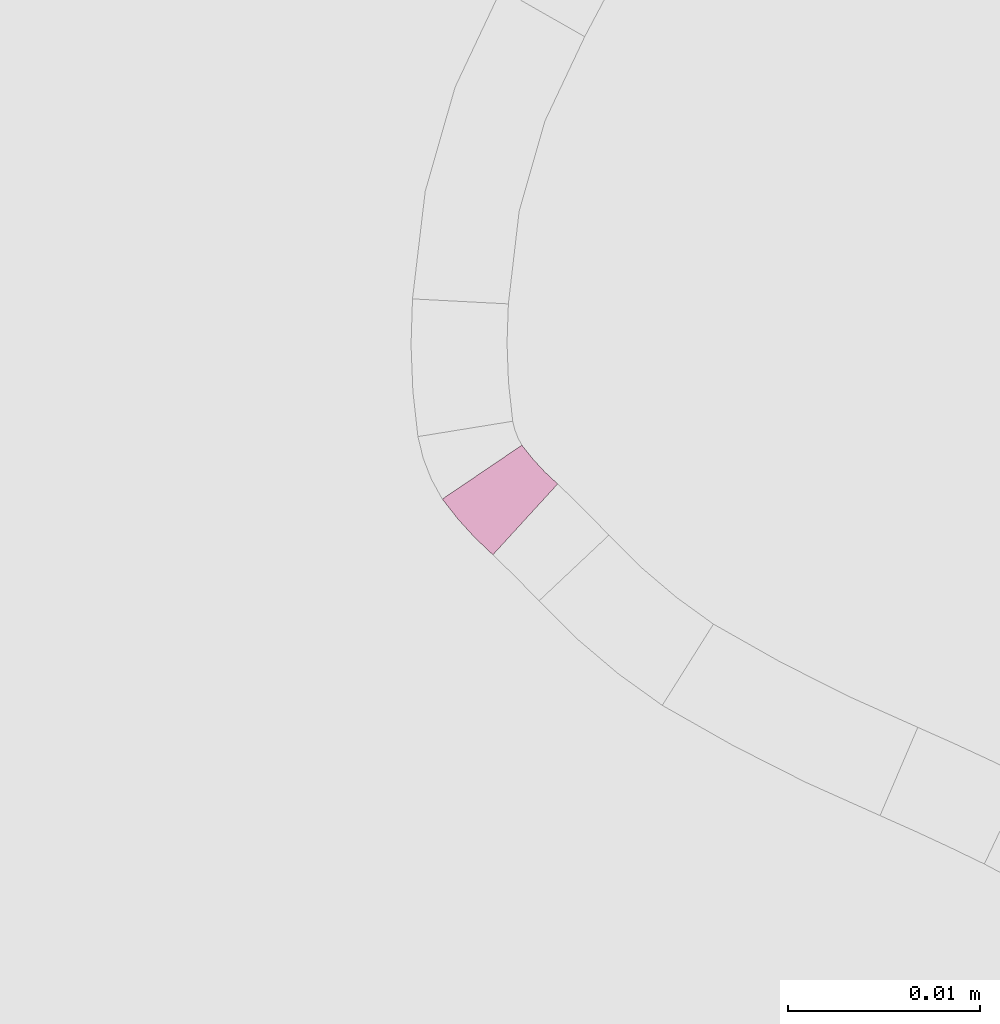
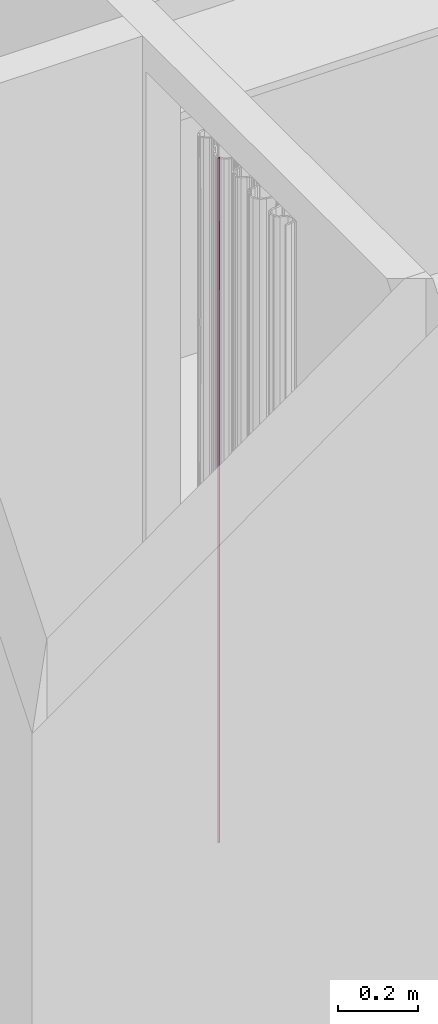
# One storey, part 323 of 418: 1 furnishing.
"""IFC2X3 building model written with IfcOpenShell, lengths in millimetres."""

import ifcopenshell
import ifcopenshell.guid

model = None  # the IFC model being written
_history = None  # IfcOwnerHistory: only IFC2X3 demands one
_inside = {}  # id of a spatial element -> (the spatial element, [elements in it])
_under = {}  # id of a project, library or spatial element -> (it, [spatial elements below it])
_declared = {}  # id of a project -> (the project, [libraries it declares])
_typed = {}  # id of a type object -> (the type object, [elements of that type])
_made_of = {}  # id of a material, layer set ... -> (it, [elements and type objects made of it])


def new_model(schema):
    """Start an empty IFC model of exactly this schema.

    Asked for "IFC4X3", IfcOpenShell would pick the latest addendum, in which some entities
    have other attributes; the version numbers below select the first issue.
    IFC2X3 requires an IfcOwnerHistory on every rooted entity: one is made here for all.
    """
    global model, _history
    if schema == "IFC4X3":
        model = ifcopenshell.file(schema_version=(4, 3, 0, 0))
    else:
        model = ifcopenshell.file(schema=schema)
    _inside.clear()
    _under.clear()
    _declared.clear()
    _typed.clear()
    _made_of.clear()
    _history = None
    if model.schema == "IFC2X3":
        org = make("IfcOrganization", Name="unknown")
        user = make(
            "IfcPersonAndOrganization",
            ThePerson=make("IfcPerson", FamilyName="unknown"),
            TheOrganization=org,
        )
        app = make(
            "IfcApplication",
            ApplicationDeveloper=org,
            Version="unknown",
            ApplicationFullName="unknown",
            ApplicationIdentifier="unknown",
        )
        _history = make(
            "IfcOwnerHistory",
            OwningUser=user,
            OwningApplication=app,
            ChangeAction="ADDED",
            CreationDate=0,
        )
    return model


def make(cls, **values):
    """One entity of the class cls with the attributes given. An attribute that is None is left unset."""
    return model.create_entity(
        cls, **{name: value for name, value in values.items() if value is not None}
    )


def entity(cls, *values):
    """Any entity or typed value of the class cls, its attributes in the order of the schema. None: left unset."""
    e = model.create_entity(cls)
    for i, value in enumerate(values):
        if value is not None:
            e[i] = value
    return e


def rooted(cls, **values):
    """An entity with a GlobalId (a new one), such as an element, a storey or a relation."""
    return make(cls, GlobalId=ifcopenshell.guid.new(), OwnerHistory=_history, **values)


def si_unit(unit_type, name, prefix=None):
    """IfcSIUnit, for example si_unit("LENGTHUNIT", "METRE", prefix="MILLI")."""
    return make("IfcSIUnit", UnitType=unit_type, Prefix=prefix, Name=name)


def converted_unit(unit_type, name, factor, base, dimensions=None, offset=None):
    """IfcConversionBasedUnit, such as the inch: factor (a typed value) times the base unit."""
    return make(
        "IfcConversionBasedUnit"
        if offset is None
        else "IfcConversionBasedUnitWithOffset",
        ConversionOffset=offset,
        Dimensions=None
        if dimensions is None
        else entity("IfcDimensionalExponents", *dimensions),
        UnitType=unit_type,
        Name=name,
        ConversionFactor=make(
            "IfcMeasureWithUnit", ValueComponent=factor, UnitComponent=base
        ),
    )


def derived_unit(unit_type, elements):
    """IfcDerivedUnit: a product of units, each with its exponent."""
    return make(
        "IfcDerivedUnit",
        Elements=[
            make("IfcDerivedUnitElement", Unit=unit, Exponent=power)
            for unit, power in elements
        ],
        UnitType=unit_type,
    )


def money_unit(currency):
    """IfcMonetaryUnit."""
    return make("IfcMonetaryUnit", Currency=currency)


def assignment(units):
    """IfcUnitAssignment: the units of a project."""
    return None if units is None else make("IfcUnitAssignment", Units=units)


def point(xyz):
    """IfcCartesianPoint."""
    return None if xyz is None else make("IfcCartesianPoint", Coordinates=xyz)


def direction(xyz):
    """IfcDirection."""
    return None if xyz is None else make("IfcDirection", DirectionRatios=xyz)


def frame(location, z_axis=None, x_axis=None):
    """IfcAxis2Placement3D, a coordinate frame: its origin and axes. An axis left out is left unset."""
    return make(
        "IfcAxis2Placement3D",
        Location=point(location),
        Axis=direction(z_axis),
        RefDirection=direction(x_axis),
    )


def frame_2d(location, x_axis=None):
    """IfcAxis2Placement2D, a coordinate frame in the plane: its origin and x axis."""
    return make(
        "IfcAxis2Placement2D", Location=point(location), RefDirection=direction(x_axis)
    )


def origin_with_axes():
    """The frame at (0, 0, 0) with the z axis (0, 0, 1) and the x axis (1, 0, 0) written out."""
    return frame((0.0, 0.0, 0.0), z_axis=(0.0, 0.0, 1.0), x_axis=(1.0, 0.0, 0.0))


def place(relative_to, where):
    """IfcLocalPlacement: puts the frame where relative to a parent placement (None: the world)."""
    return make(
        "IfcLocalPlacement", PlacementRelTo=relative_to, RelativePlacement=where
    )


def context(
    kind, dimensions, precision=None, world=None, true_north=None, identifier=None
):
    """IfcGeometricRepresentationContext, for example the 3D "Model" context."""
    return make(
        "IfcGeometricRepresentationContext",
        ContextIdentifier=identifier,
        ContextType=kind,
        CoordinateSpaceDimension=dimensions,
        Precision=precision,
        WorldCoordinateSystem=world,
        TrueNorth=true_north,
    )


def subcontext(parent, identifier, kind, view, scale=None):
    """IfcGeometricRepresentationSubContext, for example "Body" below "Model"."""
    return make(
        "IfcGeometricRepresentationSubContext",
        ContextIdentifier=identifier,
        ContextType=kind,
        ParentContext=parent,
        TargetScale=scale,
        TargetView=view,
    )


def project(units=None, contexts=None):
    """IfcProject with its units and contexts."""
    return rooted(
        "IfcProject",
        Name="project",
        RepresentationContexts=contexts,
        UnitsInContext=assignment(units),
    )


def spatial(cls, under=None, at=None, **own):
    """A site, building, storey or space (cls), placed at a placement, below another one or the project."""
    s = rooted(cls, ObjectPlacement=at, **own)
    if under is not None:
        _under.setdefault(under.id(), (under, []))[1].append(s)
    return s


def polyline(points):
    """IfcPolyline through the points."""
    return make("IfcPolyline", Points=[point(p) for p in points])


def circle_curve(where, radius):
    """IfcCircle in the frame where."""
    return make("IfcCircle", Position=where, Radius=radius)


def parameter(value):
    """IfcParameterValue: where a trimmed curve begins or ends, as a parameter of its basis curve."""
    return model.create_entity("IfcParameterValue", value)


def trimmed(basis, trim1, trim2, sense, master):
    """IfcTrimmedCurve: the piece of a basis curve between two trims."""
    return make(
        "IfcTrimmedCurve",
        BasisCurve=basis,
        Trim1=trim1,
        Trim2=trim2,
        SenseAgreement=sense,
        MasterRepresentation=master,
    )


def segment(curve, same_sense, transition):
    """IfcCompositeCurveSegment."""
    return make(
        "IfcCompositeCurveSegment",
        Transition=transition,
        SameSense=same_sense,
        ParentCurve=curve,
    )


def composite_curve(segments, self_intersect=None):
    """IfcCompositeCurve: segments joined end to end."""
    return make("IfcCompositeCurve", Segments=segments, SelfIntersect=self_intersect)


def outline(outer, holes=None, kind="AREA"):
    """IfcArbitraryClosedProfileDef: a profile drawn as a closed curve; with holes, ...WithVoids."""
    if holes is None:
        return make("IfcArbitraryClosedProfileDef", ProfileType=kind, OuterCurve=outer)
    return make(
        "IfcArbitraryProfileDefWithVoids",
        ProfileType=kind,
        OuterCurve=outer,
        InnerCurves=holes,
    )


def extrude(swept, where, along, depth):
    """IfcExtrudedAreaSolid: the profile swept, set in the frame where, extruded along a direction by depth."""
    return make(
        "IfcExtrudedAreaSolid",
        SweptArea=swept,
        Position=where,
        ExtrudedDirection=direction(along),
        Depth=depth,
    )


def shape(context_of_items, identifier, shape_type, items):
    """IfcShapeRepresentation: the items that make up one representation, for example the "Body"."""
    return make(
        "IfcShapeRepresentation",
        ContextOfItems=context_of_items,
        RepresentationIdentifier=identifier,
        RepresentationType=shape_type,
        Items=items,
    )


def material(Name=None, Category=None):
    """IfcMaterial."""
    return make("IfcMaterial", Name=Name, Category=Category)


def made_of(thing, what):
    """Note that an element or type object is made of a material, layer set ...; save() writes the relation."""
    if what is not None:
        _made_of.setdefault(what.id(), (what, []))[1].append(thing)
    return thing


def type_object(cls, material=None, **own):
    """A type object (cls), such as IfcWallType, which elements share."""
    return made_of(rooted(cls, **own), material)


def element(
    cls,
    number,
    at=None,
    inside=None,
    cuts=None,
    type_object=None,
    material=None,
    context=None,
    identifier="Body",
    shape_type=None,
    held_by="IfcProductDefinitionShape",
    body=None,
    shapes=None,
    **own,
):
    """One element of the class cls, such as IfcWall. Its Tag is "e" and its number.

    at: its placement. inside: the storey or other place that contains it. cuts: it is an
    opening in that element (IfcRelVoidsElement). A single representation is given by context,
    identifier, shape_type and body (its items); several are given by shapes. held_by: the class
    of the entity that holds the representations. save() writes the other relations.
    """
    e = rooted(cls, Tag="e%d" % number, ObjectPlacement=at, **own)
    if body is not None:
        shapes = [shape(context, identifier, shape_type, body)]
    if shapes is not None:
        e.Representation = make(held_by, Representations=shapes)
    if inside is not None:
        _inside.setdefault(inside.id(), (inside, []))[1].append(e)
    if cuts is not None:
        rooted(
            "IfcRelVoidsElement", RelatingBuildingElement=cuts, RelatedOpeningElement=e
        )
    if type_object is not None:
        _typed.setdefault(type_object.id(), (type_object, []))[1].append(e)
    return made_of(e, material)


def aggregate(whole, parts):
    """IfcRelAggregates: a whole, such as a stair, and the parts it consists of."""
    return rooted("IfcRelAggregates", RelatingObject=whole, RelatedObjects=parts)


def save(model, path):
    """Write the relations noted so far, then the file.

    IfcRelAggregates (storeys below a building ...), IfcRelContainedInSpatialStructure (elements
    in a storey), IfcRelDefinesByType, IfcRelAssociatesMaterial and IfcRelDeclares: one each for
    every whole, place, type object, material and project.
    """
    for whole, parts in _under.values():
        aggregate(whole, parts)
    for where, things in _inside.values():
        rooted(
            "IfcRelContainedInSpatialStructure",
            RelatedElements=things,
            RelatingStructure=where,
        )
    for kind, things in _typed.values():
        rooted("IfcRelDefinesByType", RelatedObjects=things, RelatingType=kind)
    for what, things in _made_of.values():
        rooted("IfcRelAssociatesMaterial", RelatedObjects=things, RelatingMaterial=what)
    for by, libraries in _declared.values():
        rooted("IfcRelDeclares", RelatingContext=by, RelatedDefinitions=libraries)
    model.write(path)


model = new_model("IFC2X3")

# Units and contexts
model_context = context("Model", 3, precision=0.01, world=origin_with_axes(), true_north=direction((0.0, 1.0)))
body_context = subcontext(model_context, "Body", "Model", "MODEL_VIEW")
ifc_project = project(units=[si_unit("LENGTHUNIT", "METRE", prefix="MILLI"), si_unit("AREAUNIT", "SQUARE_METRE"), si_unit("VOLUMEUNIT", "CUBIC_METRE"), converted_unit("PLANEANGLEUNIT", "DEGREE", entity("IfcPlaneAngleMeasure", 0.0174532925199), si_unit("PLANEANGLEUNIT", "RADIAN"), dimensions=[0, 0, 0, 0, 0, 0, 0]), si_unit("SOLIDANGLEUNIT", "STERADIAN"), money_unit("EUR"), converted_unit("TIMEUNIT", "Year", entity("IfcTimeMeasure", 31556926.0), si_unit("TIMEUNIT", "SECOND"), dimensions=[0, 0, 1, 0, 0, 0, 0]), si_unit("MASSUNIT", "GRAM", prefix="KILO"), si_unit("THERMODYNAMICTEMPERATUREUNIT", "DEGREE_CELSIUS"), si_unit("LUMINOUSINTENSITYUNIT", "LUMEN"), si_unit("ENERGYUNIT", "JOULE", prefix="MEGA"), derived_unit("THERMALCONDUCTANCEUNIT", [(si_unit("POWERUNIT", "WATT"), 1), (si_unit("LENGTHUNIT", "METRE"), -1), (si_unit("THERMODYNAMICTEMPERATUREUNIT", "KELVIN"), -1)]), derived_unit("SPECIFICHEATCAPACITYUNIT", [(si_unit("ENERGYUNIT", "JOULE"), 1), (si_unit("MASSUNIT", "GRAM", prefix="KILO"), -1), (si_unit("THERMODYNAMICTEMPERATUREUNIT", "KELVIN"), -1)]), derived_unit("MASSDENSITYUNIT", [(si_unit("MASSUNIT", "GRAM", prefix="KILO"), 1), (si_unit("VOLUMEUNIT", "CUBIC_METRE"), -1)])], contexts=[model_context])

# Site, building, storey
site_placement = place(None, origin_with_axes())
site = spatial("IfcSite", under=ifc_project, at=site_placement, Name="Paldiski mnt 245/1, Tallinn, Harjumaa", CompositionType="COMPLEX")
building_placement = place(site_placement, origin_with_axes())
building = spatial("IfcBuilding", under=site, at=building_placement, Name="RKAS Hoone üldnimetus (kasutust iseloomustav) -> IFC Project Manager -> SOLIBRI", CompositionType="ELEMENT")
storey_placement = place(building_placement, origin_with_axes())
storey = spatial("IfcBuildingStorey", under=building, at=storey_placement, Name="Esimene korrus", CompositionType="ELEMENT", Elevation=0.0)

# Furnishing
ifc_material = material(Name="KON-00_GENEERILINE - KONSTRUKTSIOON")
furniture_type = type_object("IfcFurnitureType", Name="KON-00_GENEERILINE - KONSTRUKTSIOON 5", AssemblyPlace="NOTDEFINED")
furnishing_placement = place(storey_placement, frame((-44055.0066772, -1995.06523044, 0.0), z_axis=(0.0, 0.0, 1.0), x_axis=(0.585680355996, -0.810542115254, 0.0)))
element("IfcFurnishingElement", 1, at=furnishing_placement, inside=storey, type_object=furniture_type, material=ifc_material, Name="SS-90", context=body_context, shape_type="SweptSolid", body=[
    extrude(outline(composite_curve([segment(trimmed(circle_curve(frame_2d((0.0, 17.6240035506), x_axis=(0.0, -1.0)), 17.6240035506), [point((1.56319401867e-10, 0.0)), parameter(0.0)], [point((3.89605511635, 0.436035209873)), parameter(12.7716091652)], True, "CARTESIAN"), True, "CONTINUOUS"), segment(polyline([(3.89605511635, 0.436035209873), (2.88148290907, 5.33325410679)]), True, "CONTINUOUS"), segment(trimmed(circle_curve(frame_2d((0.0, 17.6240035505), x_axis=(0.0119365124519, -0.999928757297)), 12.6240035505), [point((2.88148290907, 5.33325410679)), parameter(12.5103879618)], [point((0.150686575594, 5.00089936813)), parameter(0.0)], False, "CARTESIAN"), True, "CONTINUOUS"), segment(polyline([(0.150686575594, 5.00089936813), (1.56319401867e-10, 0.0)]), True, "CONTINUOUS")], self_intersect=False)), origin_with_axes(), (0.0, 0.0, 1.0), 2100.0),
])

save(model, "model.ifc")
